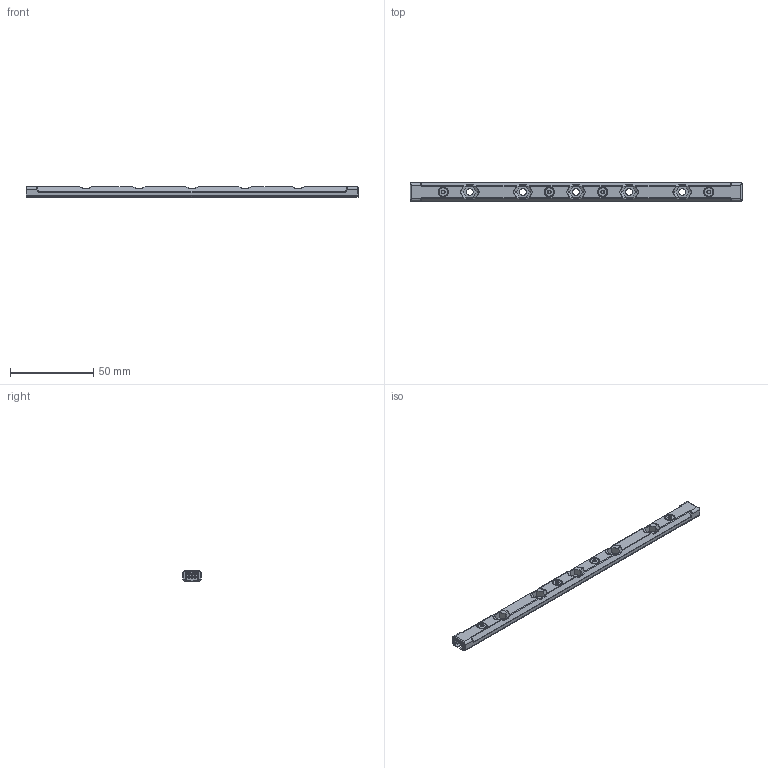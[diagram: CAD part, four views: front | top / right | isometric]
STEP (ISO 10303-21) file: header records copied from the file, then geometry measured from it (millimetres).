
FILE_DESCRIPTION(/* description */ (''),/* implementation_level */ '2;1');
FILE_NAME(/* name */ '3118-5555-0002.step',/* time_stamp */ '2025-11-05T09:40:55-06:00',/* author */ (''),/* organization */ (''),/* preprocessor_version */ 'ST-DEVELOPER v20.1',/* originating_system */ 'Autodesk Translation Framework v14.17.0.0',/* authorisation */ '');
FILE_SCHEMA (('AUTOMOTIVE_DESIGN { 1 0 10303 214 3 1 1 }'));
Products named in the file (16): [ASM] 3118-5555-0002-REV0; [DEV] 3118-5555-0002-REV0-PCB; Board; Packages; JST-PH-3POS-RA-B; JST-PH-3POS-RA-B_1; JST-PH-3POS-VERT v2; M3X1.5MM_STUD; M3X1.5MM_STUD_1; M3X1.5MM_STUD_2; M3X1.5MM_STUD_3; M3 x 1.5mm Stud v3; LED_; LED__; [DEV] 3118-5555-0002-REV0-Top-Case; 92855A301_18-8 Stainless Steel Low-Profile Socket Head Screws
Assembly tree (33 placements, depth 5):
  [ASM] 3118-5555-0002-REV0
    [DEV] 3118-5555-0002-REV0-PCB
      Board
      Packages
        JST-PH-3POS-RA-B
          JST-PH-3POS-VERT v2
        JST-PH-3POS-RA-B_1
          JST-PH-3POS-VERT v2
        M3X1.5MM_STUD
          M3 x 1.5mm Stud v3
        M3X1.5MM_STUD_1
          M3 x 1.5mm Stud v3
        M3X1.5MM_STUD_2
          M3 x 1.5mm Stud v3
        M3X1.5MM_STUD_3
          M3 x 1.5mm Stud v3
        LED_  x12
          LED__
    [DEV] 3118-5555-0002-REV0-Top-Case
    92855A301_18-8 Stainless Steel Low-Profile Socket Head Screws  x4
Bounding box: 200 x 11 x 6.5 mm (x, y, z)
Volume: 8712.1 mm3; surface area: 14765.3 mm2
Topology: 90 solids, 90 shells, 5970 faces, 15732 edges, 9808 vertices
Faces by surface type: cylinder 2518, plane 2374, bspline 548, torus 334, cone 104, sphere 92
Full cylindrical faces by diameter (mm): 2.35 x24, 2.529 x16, 3 x24, 3.086 x20, 3.2 x4, 4.09 x4, 4.1 x9, 5.5 x4, 5.56 x4, 6 x4
Entity records: 64826 total; most frequent: CARTESIAN_POINT 23335, DIRECTION 8843, ORIENTED_EDGE 8558, EDGE_CURVE 4279, AXIS2_PLACEMENT_3D 3460, VERTEX_POINT 2518, LINE 1923, VECTOR 1923
